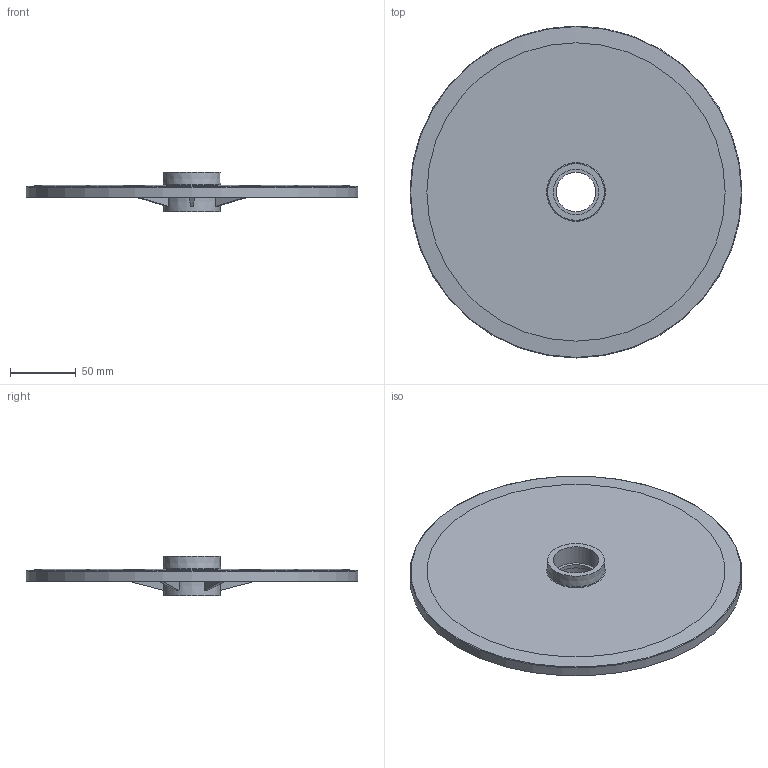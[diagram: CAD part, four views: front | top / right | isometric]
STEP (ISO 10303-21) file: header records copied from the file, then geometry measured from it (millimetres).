
FILE_DESCRIPTION((''),'2;1');
FILE_NAME('C:\Vault Klient\Projekt\Koncept konstruktion\Serie 830 Hjulkurva\830-5027.stp','2009-12-04T08:51:43',('Mathias'),(''),'Autodesk Inventor 2010','Autodesk Inventor 2010','');
FILE_SCHEMA(('CONFIG_CONTROL_DESIGN'));
Length unit declared in the file: millimetre
Products named in the file (1): 830-5027
Bounding box: 252 x 252 x 30 mm (x, y, z)
Volume: 232006.3 mm3; surface area: 120459.7 mm2
Topology: 1 solids, 1 shells, 94 faces, 245 edges, 157 vertices
Faces by surface type: plane 33, bspline 31, cylinder 19, cone 10, torus 1
Full cylindrical faces by diameter (mm): 30 x1, 34.5 x2, 252 x1
Entity records: 3985 total; most frequent: CARTESIAN_POINT 2006, ORIENTED_EDGE 462, DIRECTION 310, EDGE_CURVE 231, VERTEX_POINT 153, AXIS2_PLACEMENT_3D 131, EDGE_LOOP 110, B_SPLINE_CURVE_WITH_KNOTS 104
